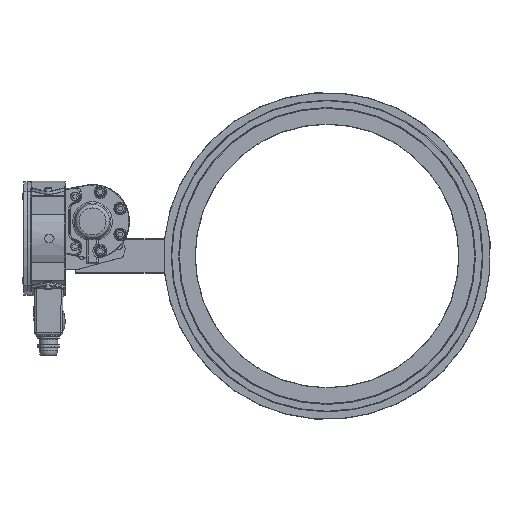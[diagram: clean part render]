
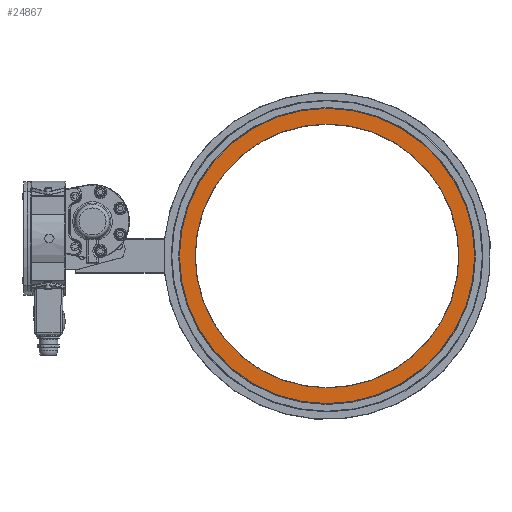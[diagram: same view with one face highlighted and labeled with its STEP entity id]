
A CAD part, top view. The second image highlights one B-rep face of the part: STEP entity #24867.
In plain terms, the highlighted planar face has unit normal (0, 0, 1).
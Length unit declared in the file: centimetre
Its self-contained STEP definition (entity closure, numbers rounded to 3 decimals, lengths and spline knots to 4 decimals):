
#7185=PLANE('',#26759);
#9264=VERTEX_POINT('',#59456);
#9265=VERTEX_POINT('',#59458);
#10191=CIRCLE('',#26791,17.375);
#10192=CIRCLE('',#26792,15.525);
#13347=EDGE_CURVE('',#9264,#9264,#10191,.T.);
#13348=EDGE_CURVE('',#9265,#9265,#10192,.T.);
#19691=ORIENTED_EDGE('',*,*,#13348,.F.);
#19692=ORIENTED_EDGE('',*,*,#13347,.F.);
#21613=EDGE_LOOP('',(#19691));
#21614=EDGE_LOOP('',(#19692));
#23400=FACE_BOUND('',#21613,.T.);
#23401=FACE_BOUND('',#21614,.T.);
#24867=ADVANCED_FACE('',(#23400,#23401),#7185,.F.);
#26759=AXIS2_PLACEMENT_3D('',#59398,#31375,$);
#26791=AXIS2_PLACEMENT_3D('',#59455,#31440,#31441);
#26792=AXIS2_PLACEMENT_3D('',#59457,#31442,#31443);
#31375=DIRECTION('',(0.,0.,-1.));
#31440=DIRECTION('',(0.,0.,-1.));
#31441=DIRECTION('',(-17.375,0.,0.));
#31442=DIRECTION('',(0.,0.,1.));
#31443=DIRECTION('',(15.525,0.,0.));
#59398=CARTESIAN_POINT('',(26.514,-2.8808,-5.7025));
#59455=CARTESIAN_POINT('',(26.514,-2.8808,-5.7025));
#59456=CARTESIAN_POINT('',(43.889,-2.8808,-5.7025));
#59457=CARTESIAN_POINT('',(26.514,-2.8808,-5.7025));
#59458=CARTESIAN_POINT('',(10.989,-2.8808,-5.7025));
